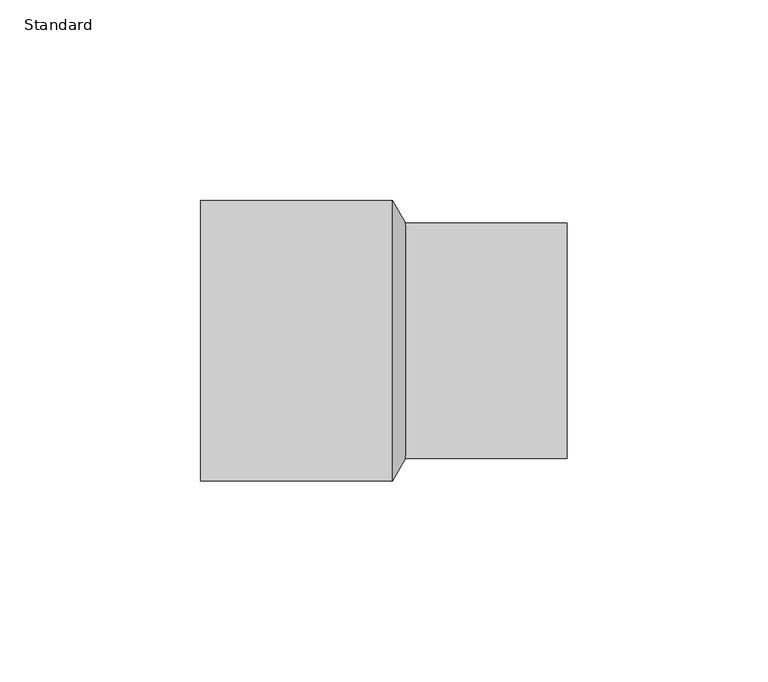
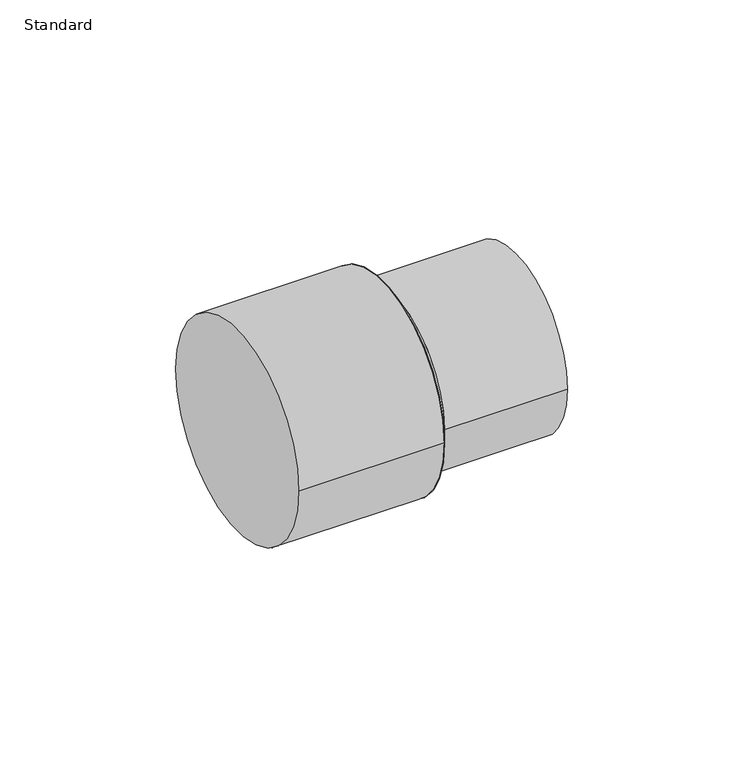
"""IFC4 building model written with IfcOpenShell, lengths in millimetres: pipe fitting geometry, M_Coupling Reducing - CPVC - Sch 40 : Standard."""

import ifcopenshell
import ifcopenshell.guid

model = None  # the IFC model being written
_history = None  # IfcOwnerHistory: only IFC2X3 demands one
_inside = {}  # id of a spatial element -> (the spatial element, [elements in it])
_under = {}  # id of a project, library or spatial element -> (it, [spatial elements below it])
_declared = {}  # id of a project -> (the project, [libraries it declares])
_typed = {}  # id of a type object -> (the type object, [elements of that type])
_made_of = {}  # id of a material, layer set ... -> (it, [elements and type objects made of it])


def new_model(schema):
    """Start an empty IFC model of exactly this schema.

    Asked for "IFC4X3", IfcOpenShell would pick the latest addendum, in which some entities
    have other attributes; the version numbers below select the first issue.
    IFC2X3 requires an IfcOwnerHistory on every rooted entity: one is made here for all.
    """
    global model, _history
    if schema == "IFC4X3":
        model = ifcopenshell.file(schema_version=(4, 3, 0, 0))
    else:
        model = ifcopenshell.file(schema=schema)
    _inside.clear()
    _under.clear()
    _declared.clear()
    _typed.clear()
    _made_of.clear()
    _history = None
    if model.schema == "IFC2X3":
        org = make("IfcOrganization", Name="unknown")
        user = make(
            "IfcPersonAndOrganization",
            ThePerson=make("IfcPerson", FamilyName="unknown"),
            TheOrganization=org,
        )
        app = make(
            "IfcApplication",
            ApplicationDeveloper=org,
            Version="unknown",
            ApplicationFullName="unknown",
            ApplicationIdentifier="unknown",
        )
        _history = make(
            "IfcOwnerHistory",
            OwningUser=user,
            OwningApplication=app,
            ChangeAction="ADDED",
            CreationDate=0,
        )
    return model


def make(cls, **values):
    """One entity of the class cls with the attributes given. An attribute that is None is left unset."""
    return model.create_entity(
        cls, **{name: value for name, value in values.items() if value is not None}
    )


def rooted(cls, **values):
    """An entity with a GlobalId (a new one), such as an element, a storey or a relation."""
    return make(cls, GlobalId=ifcopenshell.guid.new(), OwnerHistory=_history, **values)


def si_unit(unit_type, name, prefix=None):
    """IfcSIUnit, for example si_unit("LENGTHUNIT", "METRE", prefix="MILLI")."""
    return make("IfcSIUnit", UnitType=unit_type, Prefix=prefix, Name=name)


def assignment(units):
    """IfcUnitAssignment: the units of a project."""
    return None if units is None else make("IfcUnitAssignment", Units=units)


def point(xyz):
    """IfcCartesianPoint."""
    return None if xyz is None else make("IfcCartesianPoint", Coordinates=xyz)


def direction(xyz):
    """IfcDirection."""
    return None if xyz is None else make("IfcDirection", DirectionRatios=xyz)


def frame(location, z_axis=None, x_axis=None):
    """IfcAxis2Placement3D, a coordinate frame: its origin and axes. An axis left out is left unset."""
    return make(
        "IfcAxis2Placement3D",
        Location=point(location),
        Axis=direction(z_axis),
        RefDirection=direction(x_axis),
    )


def frame_2d(location, x_axis=None):
    """IfcAxis2Placement2D, a coordinate frame in the plane: its origin and x axis."""
    return make(
        "IfcAxis2Placement2D", Location=point(location), RefDirection=direction(x_axis)
    )


def origin():
    """The frame at (0, 0, 0) with its axes left unset."""
    return frame((0.0, 0.0, 0.0))


def origin_2d():
    """The frame at (0, 0) in the plane with its x axis left unset."""
    return frame_2d((0.0, 0.0))


def place(relative_to, where):
    """IfcLocalPlacement: puts the frame where relative to a parent placement (None: the world)."""
    return make(
        "IfcLocalPlacement", PlacementRelTo=relative_to, RelativePlacement=where
    )


def context(
    kind, dimensions, precision=None, world=None, true_north=None, identifier=None
):
    """IfcGeometricRepresentationContext, for example the 3D "Model" context."""
    return make(
        "IfcGeometricRepresentationContext",
        ContextIdentifier=identifier,
        ContextType=kind,
        CoordinateSpaceDimension=dimensions,
        Precision=precision,
        WorldCoordinateSystem=world,
        TrueNorth=true_north,
    )


def project(units=None, contexts=None):
    """IfcProject with its units and contexts."""
    return rooted(
        "IfcProject",
        Name="project",
        RepresentationContexts=contexts,
        UnitsInContext=assignment(units),
    )


def spatial(cls, under=None, at=None, **own):
    """A site, building, storey or space (cls), placed at a placement, below another one or the project."""
    s = rooted(cls, ObjectPlacement=at, **own)
    if under is not None:
        _under.setdefault(under.id(), (under, []))[1].append(s)
    return s


def polyline(points):
    """IfcPolyline through the points."""
    return make("IfcPolyline", Points=[point(p) for p in points])


def circle_curve(where, radius):
    """IfcCircle in the frame where."""
    return make("IfcCircle", Position=where, Radius=radius)


def trimmed(basis, trim1, trim2, sense, master):
    """IfcTrimmedCurve: the piece of a basis curve between two trims."""
    return make(
        "IfcTrimmedCurve",
        BasisCurve=basis,
        Trim1=trim1,
        Trim2=trim2,
        SenseAgreement=sense,
        MasterRepresentation=master,
    )


def segment(curve, same_sense, transition):
    """IfcCompositeCurveSegment."""
    return make(
        "IfcCompositeCurveSegment",
        Transition=transition,
        SameSense=same_sense,
        ParentCurve=curve,
    )


def composite_curve(segments, self_intersect=None):
    """IfcCompositeCurve: segments joined end to end."""
    return make("IfcCompositeCurve", Segments=segments, SelfIntersect=self_intersect)


def outline(outer, holes=None, kind="AREA"):
    """IfcArbitraryClosedProfileDef: a profile drawn as a closed curve; with holes, ...WithVoids."""
    if holes is None:
        return make("IfcArbitraryClosedProfileDef", ProfileType=kind, OuterCurve=outer)
    return make(
        "IfcArbitraryProfileDefWithVoids",
        ProfileType=kind,
        OuterCurve=outer,
        InnerCurves=holes,
    )


def extrude(swept, where, along, depth):
    """IfcExtrudedAreaSolid: the profile swept, set in the frame where, extruded along a direction by depth."""
    return make(
        "IfcExtrudedAreaSolid",
        SweptArea=swept,
        Position=where,
        ExtrudedDirection=direction(along),
        Depth=depth,
    )


def shape(context_of_items, identifier, shape_type, items):
    """IfcShapeRepresentation: the items that make up one representation, for example the "Body"."""
    return make(
        "IfcShapeRepresentation",
        ContextOfItems=context_of_items,
        RepresentationIdentifier=identifier,
        RepresentationType=shape_type,
        Items=items,
    )


def source(mapping_origin, context_of_items, identifier, shape_type, items):
    """IfcRepresentationMap: a shape defined once, which mapped items show again and again."""
    return make(
        "IfcRepresentationMap",
        MappingOrigin=mapping_origin,
        MappedRepresentation=shape(context_of_items, identifier, shape_type, items),
    )


def transform(
    local_origin,
    x_axis=None,
    y_axis=None,
    z_axis=None,
    scale=None,
    scale2=None,
    scale3=None,
    uniform=True,
):
    """IfcCartesianTransformationOperator3D, or its non-uniform kind. x_axis, y_axis, z_axis: its Axis1, 2, 3."""
    if uniform:
        return make(
            "IfcCartesianTransformationOperator3D",
            Axis1=direction(x_axis),
            Axis2=direction(y_axis),
            LocalOrigin=point(local_origin),
            Scale=scale,
            Axis3=direction(z_axis),
        )
    return make(
        "IfcCartesianTransformationOperator3DnonUniform",
        Axis1=direction(x_axis),
        Axis2=direction(y_axis),
        LocalOrigin=point(local_origin),
        Scale=scale,
        Axis3=direction(z_axis),
        Scale2=scale2,
        Scale3=scale3,
    )


def mapped(mapping_source, mapping_target):
    """IfcMappedItem: shows the shape of a source again, moved by a transform."""
    return make(
        "IfcMappedItem", MappingSource=mapping_source, MappingTarget=mapping_target
    )


def made_of(thing, what):
    """Note that an element or type object is made of a material, layer set ...; save() writes the relation."""
    if what is not None:
        _made_of.setdefault(what.id(), (what, []))[1].append(thing)
    return thing


def element(
    cls,
    number,
    at=None,
    inside=None,
    cuts=None,
    type_object=None,
    material=None,
    context=None,
    identifier="Body",
    shape_type=None,
    held_by="IfcProductDefinitionShape",
    body=None,
    shapes=None,
    **own,
):
    """One element of the class cls, such as IfcWall. Its Tag is "e" and its number.

    at: its placement. inside: the storey or other place that contains it. cuts: it is an
    opening in that element (IfcRelVoidsElement). A single representation is given by context,
    identifier, shape_type and body (its items); several are given by shapes. held_by: the class
    of the entity that holds the representations. save() writes the other relations.
    """
    e = rooted(cls, Tag="e%d" % number, ObjectPlacement=at, **own)
    if body is not None:
        shapes = [shape(context, identifier, shape_type, body)]
    if shapes is not None:
        e.Representation = make(held_by, Representations=shapes)
    if inside is not None:
        _inside.setdefault(inside.id(), (inside, []))[1].append(e)
    if cuts is not None:
        rooted(
            "IfcRelVoidsElement", RelatingBuildingElement=cuts, RelatedOpeningElement=e
        )
    if type_object is not None:
        _typed.setdefault(type_object.id(), (type_object, []))[1].append(e)
    return made_of(e, material)


def aggregate(whole, parts):
    """IfcRelAggregates: a whole, such as a stair, and the parts it consists of."""
    return rooted("IfcRelAggregates", RelatingObject=whole, RelatedObjects=parts)


def save(model, path):
    """Write the relations noted so far, then the file.

    IfcRelAggregates (storeys below a building ...), IfcRelContainedInSpatialStructure (elements
    in a storey), IfcRelDefinesByType, IfcRelAssociatesMaterial and IfcRelDeclares: one each for
    every whole, place, type object, material and project.
    """
    for whole, parts in _under.values():
        aggregate(whole, parts)
    for where, things in _inside.values():
        rooted(
            "IfcRelContainedInSpatialStructure",
            RelatedElements=things,
            RelatingStructure=where,
        )
    for kind, things in _typed.values():
        rooted("IfcRelDefinesByType", RelatedObjects=things, RelatingType=kind)
    for what, things in _made_of.values():
        rooted("IfcRelAssociatesMaterial", RelatedObjects=things, RelatingMaterial=what)
    for by, libraries in _declared.values():
        rooted("IfcRelDeclares", RelatingContext=by, RelatedDefinitions=libraries)
    model.write(path)


def plane_surface(at):
    """IfcPlane: the flat surface through the origin of the frame at, square to its z axis."""
    return make("IfcPlane", Position=at)


def revolved_surface(curve, axis_point, axis_direction):
    """IfcSurfaceOfRevolution: the curve turned about the line through axis_point along axis_direction."""
    return make(
        "IfcSurfaceOfRevolution",
        SweptCurve=make("IfcArbitraryOpenProfileDef", ProfileType="CURVE", Curve=curve),
        AxisPosition=make("IfcAxis1Placement", Location=point(axis_point), Axis=direction(axis_direction)),
    )


def advanced_brep(points, edges, surfaces, faces):
    """IfcAdvancedBrep: a solid bounded by faces that lie on surfaces and meet in shared edges.

    An edge is (start, end): straight between two places in points (the first is 0);
    or (start, end, curve); or (start, end, curve, False) where it runs against its curve.
    A face is (place in surfaces, loops), or (place, loops, False) where it looks against
    its surface's normal. A loop lists edges by number (the first is 1), with a minus sign
    where the edge is run from its end to its start. The first loop is the outer one.
    """
    corners = [point(p) for p in points]
    vertices = [make("IfcVertexPoint", VertexGeometry=c) for c in corners]
    made = []
    for start, end, *more in edges:
        made.append(
            make(
                "IfcEdgeCurve",
                EdgeStart=vertices[start],
                EdgeEnd=vertices[end],
                EdgeGeometry=more[0] if more else make("IfcPolyline", Points=[corners[start], corners[end]]),
                SameSense=more[1] if len(more) > 1 else True,
            )
        )
    hull = []
    for where, loops, *sense in faces:
        bounds = []
        for j, loop in enumerate(loops):
            ring = [make("IfcOrientedEdge", EdgeElement=made[abs(k) - 1], Orientation=k > 0) for k in loop]
            bounds.append(
                make(
                    "IfcFaceOuterBound" if j == 0 else "IfcFaceBound",
                    Bound=make("IfcEdgeLoop", EdgeList=ring),
                    Orientation=True,
                )
            )
        hull.append(make("IfcAdvancedFace", Bounds=bounds, FaceSurface=surfaces[where], SameSense=sense[0] if sense else True))
    return make("IfcAdvancedBrep", Outer=make("IfcClosedShell", CfsFaces=hull))


def standard_92e3b147(model_context):
    return source(origin(), model_context, "Body", "SolidModel", [
        advanced_brep(
        [(51.096875, -29.3949219, 0.0), (51.096875, 29.3949219, 0.0), (47.921875, -34.9949219, 0.0), (47.921875, 34.9949219, 0.0)],
        [
            (0, 1, circle_curve(frame((51.096875, 0.0, 0.0), z_axis=(1.0, -4.273914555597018e-12, 0.0), x_axis=(-4.273902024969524e-12, -1.0, 0.0)), 29.3949219)),
            (1, 0, circle_curve(frame((51.096875, 0.0, 0.0), z_axis=(1.0, -4.273914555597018e-12, 0.0), x_axis=(4.273902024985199e-12, 1.0, 0.0)), 29.3949219)),
            (2, 3, circle_curve(frame((47.921875, 0.0, 0.0), z_axis=(-1.0, 4.273914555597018e-12, 0.0), x_axis=(4.273902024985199e-12, 1.0, 0.0)), 34.9949219)),
            (3, 2, circle_curve(frame((47.921875, 0.0, 0.0), z_axis=(-1.0, 4.273914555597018e-12, 0.0), x_axis=(-4.273902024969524e-12, -1.0, 0.0)), 34.9949219)),
            (3, 1),
            (0, 2),
        ],
        [
            plane_surface(frame((51.096875, 0.0, 0.0), z_axis=(1.0, 0.0, 0.0), x_axis=(0.0, 0.0, -1.0))),
            plane_surface(frame((47.921875, 0.0, 0.0), z_axis=(-1.0, 0.0, 0.0), x_axis=(0.0, 0.0, -1.0))),
            revolved_surface(polyline([(51.096875, -29.394921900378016, 0.0), (47.92187499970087, -34.99492190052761, 0.0)]), (67.7627459, 0.0, 0.0), (-1.0, 4.273914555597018e-12, 0.0)),
            revolved_surface(polyline([(51.09687500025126, 29.39492189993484, 0.0), (47.921875, 34.9949219, 0.0)]), (67.7627459, 0.0, 0.0), (-1.0, 4.273914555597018e-12, 0.0)),
        ],
        [
            (0, [[1, 2]]),
            (1, [[3, 4]]),
            (2, [[-4, 5, -1, 6]]),
            (3, [[-3, -6, -2, -5]]),
        ],
    ),
        extrude(outline(composite_curve([segment(trimmed(circle_curve(origin_2d(), 29.3949219), [point((-29.3949219, 0.0))], [point((29.3949219, 0.0))], False, "CARTESIAN"), True, "CONTINUOUS"), segment(trimmed(circle_curve(origin_2d(), 29.3949219), [point((29.3949219, 0.0))], [point((-29.3949219, 0.0))], False, "CARTESIAN"), True, "CONTINUOUS")], self_intersect=False)), frame((51.096875, 0.0, 0.0), z_axis=(1.0, 0.0, 0.0), x_axis=(0.0, 1.0, 0.0)), (0.0, 0.0, 1.0), 40.321875),
        extrude(outline(composite_curve([segment(trimmed(circle_curve(origin_2d(), 34.9949219), [point((-34.9949219, 0.0))], [point((34.9949219, 0.0))], False, "CARTESIAN"), True, "CONTINUOUS"), segment(trimmed(circle_curve(origin_2d(), 34.9949219), [point((34.9949219, 0.0))], [point((-34.9949219, 0.0))], False, "CARTESIAN"), True, "CONTINUOUS")], self_intersect=False)), frame((0.0, 0.0, 0.0), z_axis=(1.0, 0.0, 0.0), x_axis=(0.0, 1.0, 0.0)), (0.0, 0.0, 1.0), 47.921875),
    ])


if __name__ == "__main__":
    model = new_model("IFC4")
    model_context = context("Model", 3, world=origin())
    ifc_project = project(units=[si_unit("LENGTHUNIT", "METRE", prefix="MILLI")], contexts=[model_context])
    site = spatial("IfcSite", under=ifc_project)
    building = spatial("IfcBuilding", under=site)
    placement = place(None, origin())
    standard_shape = standard_92e3b147(model_context)
    element("IfcPipeFitting", 1, ObjectType="M_Coupling Reducing - CPVC - Sch 40 : Standard", at=placement, inside=building, context=model_context, shape_type="MappedRepresentation", body=[
        mapped(standard_shape, transform((0.0, 0.0, 0.0), x_axis=(1.0, 0.0, 0.0), y_axis=(0.0, 1.0, 0.0), z_axis=(0.0, 0.0, 1.0))),
    ])
    save(model, "model.ifc")
